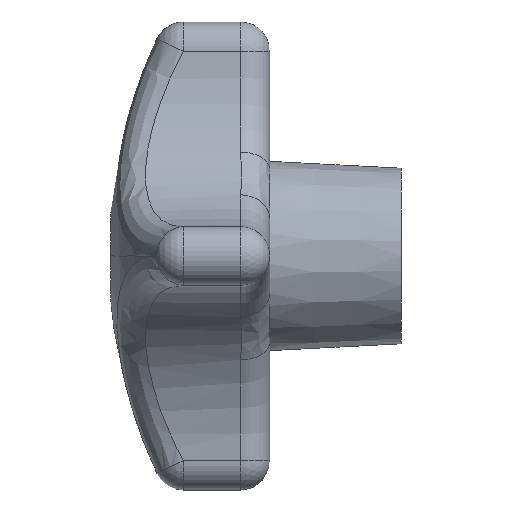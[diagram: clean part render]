
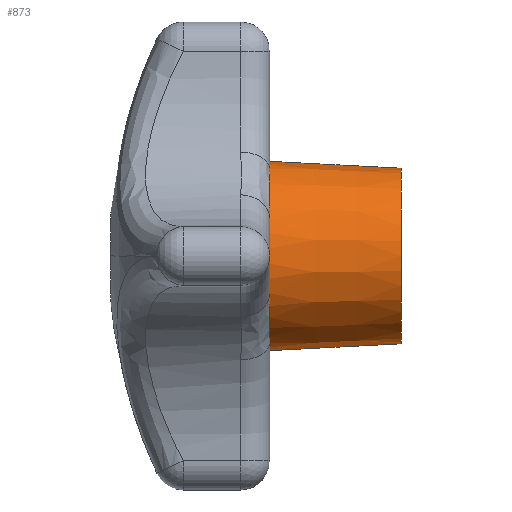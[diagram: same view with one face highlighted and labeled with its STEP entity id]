
A CAD part, left-side view. The second image highlights one B-rep face of the part: STEP entity #873.
In plain terms, the highlighted conical face has half-angle 3 degrees and reference radius 6 mm.
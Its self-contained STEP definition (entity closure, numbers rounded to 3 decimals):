
#790 = VERTEX_POINT ( 'NONE', #3476 ) ;
#791 = VERTEX_POINT ( 'NONE', #3475 ) ;
#793 = EDGE_CURVE ( 'NONE', #791, #794, #3474, .T. ) ;
#794 = VERTEX_POINT ( 'NONE', #3470 ) ;
#815 = VERTEX_POINT ( 'NONE', #3491 ) ;
#817 = EDGE_CURVE ( 'NONE', #790, #815, #2804, .T. ) ;
#826 = EDGE_CURVE ( 'NONE', #844, #815, #2831, .T. ) ;
#828 = ORIENTED_EDGE ( 'NONE', *, *, #843, .F. ) ;
#843 = EDGE_CURVE ( 'NONE', #794, #871, #3533, .T. ) ;
#844 = VERTEX_POINT ( 'NONE', #3529 ) ;
#858 = ORIENTED_EDGE ( 'NONE', *, *, #861, .F. ) ;
#859 = EDGE_CURVE ( 'NONE', #885, #844, #3566, .T. ) ;
#860 = EDGE_CURVE ( 'NONE', #791, #790, #3561, .T. ) ;
#861 = EDGE_CURVE ( 'NONE', #871, #882, #3556, .T. ) ;
#862 = ORIENTED_EDGE ( 'NONE', *, *, #826, .F. ) ;
#863 = ORIENTED_EDGE ( 'NONE', *, *, #859, .F. ) ;
#864 = ORIENTED_EDGE ( 'NONE', *, *, #888, .F. ) ;
#865 = ORIENTED_EDGE ( 'NONE', *, *, #817, .T. ) ;
#866 = ORIENTED_EDGE ( 'NONE', *, *, #860, .T. ) ;
#867 = ORIENTED_EDGE ( 'NONE', *, *, #793, .F. ) ;
#868 = EDGE_LOOP ( 'NONE', ( #867, #866, #865, #862, #863, #864, #858, #828 ) ) ;
#871 = VERTEX_POINT ( 'NONE', #3607 ) ;
#873 = ADVANCED_FACE ( 'NONE', ( #3605 ), #3604, .T. ) ;
#882 = VERTEX_POINT ( 'NONE', #3582 ) ;
#885 = VERTEX_POINT ( 'NONE', #3636 ) ;
#888 = EDGE_CURVE ( 'NONE', #882, #885, #3633, .T. ) ;
#2802 = VECTOR ( 'NONE', #2808, 1000. ) ;
#2803 = CARTESIAN_POINT ( 'NONE',  ( 0., -9., 6. ) ) ;
#2804 = LINE ( 'NONE', #2803, #2802 ) ;
#2808 = DIRECTION ( 'NONE',  ( 0., 0.999, 0.052 ) ) ;
#2827 = DIRECTION ( 'NONE',  ( 0., 0., 1. ) ) ;
#2828 = DIRECTION ( 'NONE',  ( 0., 1., 0. ) ) ;
#2829 = CARTESIAN_POINT ( 'NONE',  ( 0., 0., 0. ) ) ;
#2830 = AXIS2_PLACEMENT_3D ( 'NONE', #2829, #2828, #2827 ) ;
#2831 = CIRCLE ( 'NONE', #2830, 6.472 ) ;
#3470 = CARTESIAN_POINT ( 'NONE',  ( 0., 0., -6.472 ) ) ;
#3471 = DIRECTION ( 'NONE',  ( 0., 0.999, -0.052 ) ) ;
#3472 = VECTOR ( 'NONE', #3471, 1000. ) ;
#3473 = CARTESIAN_POINT ( 'NONE',  ( 0., -9., -6. ) ) ;
#3474 = LINE ( 'NONE', #3473, #3472 ) ;
#3475 = CARTESIAN_POINT ( 'NONE',  ( 0., -9., -6. ) ) ;
#3476 = CARTESIAN_POINT ( 'NONE',  ( 0., -9., 6. ) ) ;
#3491 = CARTESIAN_POINT ( 'NONE',  ( 0., 0., 6.472 ) ) ;
#3529 = CARTESIAN_POINT ( 'NONE',  ( -2.546, 0., 5.95 ) ) ;
#3530 = DIRECTION ( 'NONE',  ( 0., 0., 1. ) ) ;
#3531 = DIRECTION ( 'NONE',  ( 0., 1., 0. ) ) ;
#3532 = AXIS2_PLACEMENT_3D ( 'NONE', #3537, #3531, #3530 ) ;
#3533 = CIRCLE ( 'NONE', #3532, 6.472 ) ;
#3537 = CARTESIAN_POINT ( 'NONE',  ( 0., 0., 0. ) ) ;
#3552 = DIRECTION ( 'NONE',  ( 0., 0., 1. ) ) ;
#3553 = DIRECTION ( 'NONE',  ( 0., 1., 0. ) ) ;
#3554 = CARTESIAN_POINT ( 'NONE',  ( 0., 0., 0. ) ) ;
#3555 = AXIS2_PLACEMENT_3D ( 'NONE', #3554, #3553, #3552 ) ;
#3556 = CIRCLE ( 'NONE', #3555, 6.472 ) ;
#3557 = DIRECTION ( 'NONE',  ( 0., 0., 1. ) ) ;
#3558 = DIRECTION ( 'NONE',  ( 0., 1., 0. ) ) ;
#3559 = CARTESIAN_POINT ( 'NONE',  ( 0., -9., 0. ) ) ;
#3560 = AXIS2_PLACEMENT_3D ( 'NONE', #3559, #3558, #3557 ) ;
#3561 = CIRCLE ( 'NONE', #3560, 6. ) ;
#3562 = DIRECTION ( 'NONE',  ( 0., 0., 1. ) ) ;
#3563 = DIRECTION ( 'NONE',  ( 0., 1., 0. ) ) ;
#3564 = CARTESIAN_POINT ( 'NONE',  ( 0., 0., 0. ) ) ;
#3565 = AXIS2_PLACEMENT_3D ( 'NONE', #3564, #3563, #3562 ) ;
#3566 = CIRCLE ( 'NONE', #3565, 6.472 ) ;
#3582 = CARTESIAN_POINT ( 'NONE',  ( -5.95, 0., -2.546 ) ) ;
#3599 = DIRECTION ( 'NONE',  ( 0., 0., 1. ) ) ;
#3600 = DIRECTION ( 'NONE',  ( 0., 1., 0. ) ) ;
#3601 = CARTESIAN_POINT ( 'NONE',  ( 0., -9., 0. ) ) ;
#3602 = AXIS2_PLACEMENT_3D ( 'NONE', #3601, #3600, #3599 ) ;
#3604 = CONICAL_SURFACE ( 'NONE', #3602, 6., 0.052 ) ;
#3605 = FACE_OUTER_BOUND ( 'NONE', #868, .T. ) ;
#3607 = CARTESIAN_POINT ( 'NONE',  ( -2.546, 0., -5.95 ) ) ;
#3629 = DIRECTION ( 'NONE',  ( 0., 0., 1. ) ) ;
#3630 = DIRECTION ( 'NONE',  ( 0., 1., 0. ) ) ;
#3631 = CARTESIAN_POINT ( 'NONE',  ( 0., 0., 0. ) ) ;
#3632 = AXIS2_PLACEMENT_3D ( 'NONE', #3631, #3630, #3629 ) ;
#3633 = CIRCLE ( 'NONE', #3632, 6.472 ) ;
#3636 = CARTESIAN_POINT ( 'NONE',  ( -5.95, 0., 2.546 ) ) ;
